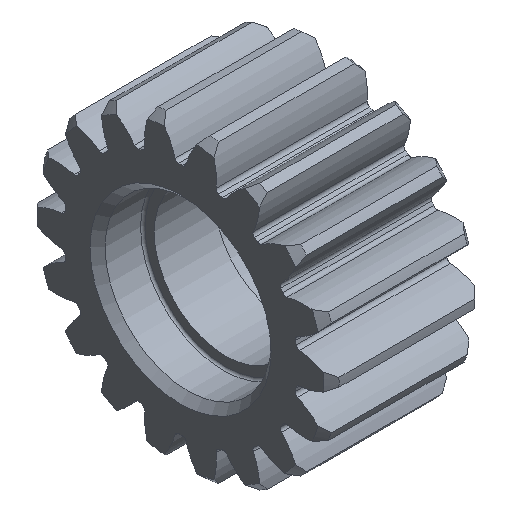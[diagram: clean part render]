
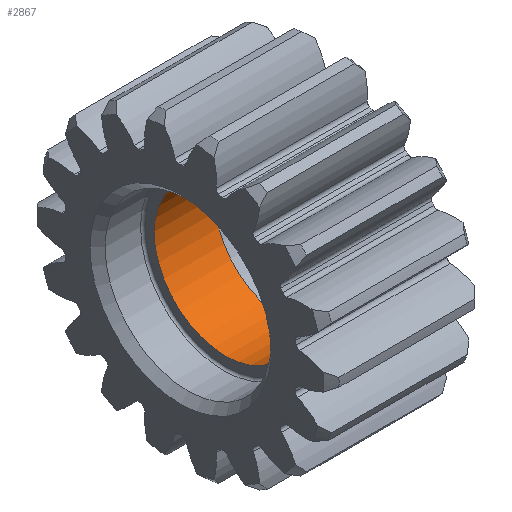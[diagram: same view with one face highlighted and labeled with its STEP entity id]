
A CAD part, isometric view. The second image highlights one B-rep face of the part: STEP entity #2867.
In plain terms, the highlighted cylindrical face has radius 9.5 mm (diameter 19 mm), a full revolution.
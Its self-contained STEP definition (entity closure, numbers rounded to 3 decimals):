
#207=CYLINDRICAL_SURFACE('',#3310,9.5);
#360=FACE_OUTER_BOUND('',#518,.T.);
#518=EDGE_LOOP('',(#2666,#2667,#2668,#2669));
#634=LINE('',#5397,#747);
#747=VECTOR('',#4266,9.5);
#1012=CIRCLE('',#3309,9.5);
#1013=CIRCLE('',#3311,9.5);
#1315=VERTEX_POINT('',#5393);
#1316=VERTEX_POINT('',#5396);
#1766=EDGE_CURVE('',#1315,#1315,#1012,.T.);
#1767=EDGE_CURVE('',#1315,#1316,#634,.T.);
#1768=EDGE_CURVE('',#1316,#1316,#1013,.T.);
#2666=ORIENTED_EDGE('',*,*,#1766,.T.);
#2667=ORIENTED_EDGE('',*,*,#1767,.T.);
#2668=ORIENTED_EDGE('',*,*,#1768,.F.);
#2669=ORIENTED_EDGE('',*,*,#1767,.F.);
#2867=ADVANCED_FACE('',(#360),#207,.F.);
#3309=AXIS2_PLACEMENT_3D('',#5394,#4262,#4263);
#3310=AXIS2_PLACEMENT_3D('',#5395,#4264,#4265);
#3311=AXIS2_PLACEMENT_3D('',#5398,#4267,#4268);
#4262=DIRECTION('center_axis',(1.,0.,0.));
#4263=DIRECTION('ref_axis',(0.,0.,-1.));
#4264=DIRECTION('center_axis',(1.,0.,0.));
#4265=DIRECTION('ref_axis',(0.,1.,0.));
#4266=DIRECTION('',(-1.,0.,0.));
#4267=DIRECTION('center_axis',(1.,0.,0.));
#4268=DIRECTION('ref_axis',(0.,0.,-1.));
#5393=CARTESIAN_POINT('',(4.,-9.5,0.));
#5394=CARTESIAN_POINT('Origin',(4.,0.,0.));
#5395=CARTESIAN_POINT('Origin',(0.,0.,0.));
#5396=CARTESIAN_POINT('',(-4.,-9.5,0.));
#5397=CARTESIAN_POINT('',(0.,-9.5,0.));
#5398=CARTESIAN_POINT('Origin',(-4.,0.,0.));
